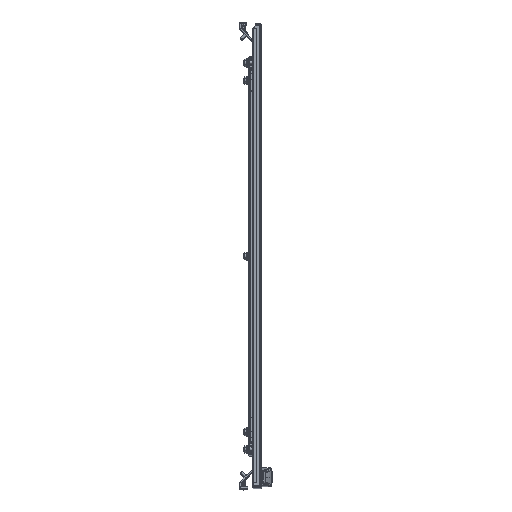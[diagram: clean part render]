
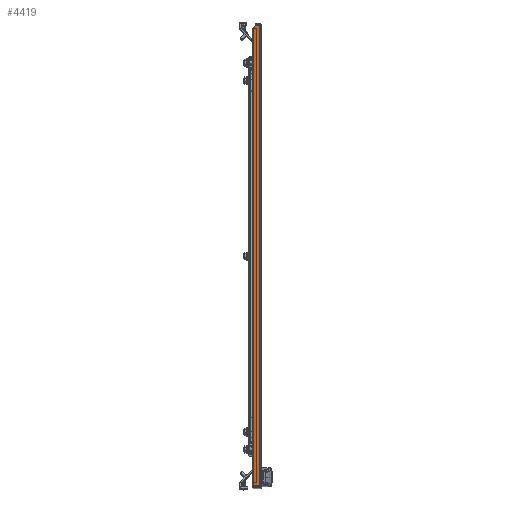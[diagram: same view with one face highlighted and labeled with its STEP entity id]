
A CAD part, top view. The second image highlights one B-rep face of the part: STEP entity #4419.
In plain terms, the highlighted planar face has unit normal (0, 0, 1).
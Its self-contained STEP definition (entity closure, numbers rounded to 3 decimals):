
#4419=ADVANCED_FACE('',(#12334),#12336,.T.);
#12334=FACE_BOUND('',#12335,.T.);
#12335=EDGE_LOOP('',(#31663,#31664,#31665,#31666,#31667,#31668,#31669,#31670,#31671));
#12336=PLANE('',#12337);
#12337=AXIS2_PLACEMENT_3D('',#12338,#12339,#12340);
#12338=CARTESIAN_POINT('',(-13.5,-393.2,785.5));
#12339=DIRECTION('',(0.,0.,1.));
#12340=DIRECTION('',(1.,0.,0.));
#31663=ORIENTED_EDGE('',*,*,#38468,.T.);
#31664=ORIENTED_EDGE('',*,*,#38474,.F.);
#31665=ORIENTED_EDGE('',*,*,#38475,.T.);
#31666=ORIENTED_EDGE('',*,*,#38476,.T.);
#31667=ORIENTED_EDGE('',*,*,#38477,.T.);
#31668=ORIENTED_EDGE('',*,*,#38478,.F.);
#31669=ORIENTED_EDGE('',*,*,#38479,.T.);
#31670=ORIENTED_EDGE('',*,*,#38480,.T.);
#31671=ORIENTED_EDGE('',*,*,#38431,.T.);
#38431=EDGE_CURVE('',#41931,#41929,#41932,.T.);
#38468=EDGE_CURVE('',#41929,#41994,#41996,.T.);
#38474=EDGE_CURVE('',#42005,#41994,#42006,.T.);
#38475=EDGE_CURVE('',#42005,#42007,#42008,.F.);
#38476=EDGE_CURVE('',#42007,#42009,#42010,.T.);
#38477=EDGE_CURVE('',#42009,#42011,#42012,.T.);
#38478=EDGE_CURVE('',#42013,#42011,#42014,.T.);
#38479=EDGE_CURVE('',#42013,#42015,#42016,.F.);
#38480=EDGE_CURVE('',#42015,#41931,#42017,.F.);
#41929=VERTEX_POINT('',#47834);
#41931=VERTEX_POINT('',#47839);
#41932=LINE('',#47840,#47841);
#41994=VERTEX_POINT('',#47983);
#41996=LINE('',#47987,#47988);
#42005=VERTEX_POINT('',#48010);
#42006=LINE('',#48011,#48012);
#42007=VERTEX_POINT('',#48014);
#42008=CIRCLE('',#48015,2.8);
#42009=VERTEX_POINT('',#48019);
#42010=LINE('',#48020,#48021);
#42011=VERTEX_POINT('',#48023);
#42012=LINE('',#48024,#48025);
#42013=VERTEX_POINT('',#48027);
#42014=LINE('',#48028,#48029);
#42015=VERTEX_POINT('',#48031);
#42016=CIRCLE('',#48032,1.55);
#42017=LINE('',#48036,#48037);
#47834=CARTESIAN_POINT('',(-11.95,-388.,785.5));
#47839=CARTESIAN_POINT('',(-11.95,387.859,785.5));
#47840=CARTESIAN_POINT('',(-11.95,387.859,785.5));
#47841=VECTOR('',#47842,1.);
#47842=DIRECTION('',(0.,-1.,0.));
#47983=CARTESIAN_POINT('',(-13.5,-388.,785.5));
#47987=CARTESIAN_POINT('',(-11.95,-388.,785.5));
#47988=VECTOR('',#47989,1.);
#47989=DIRECTION('',(-1.,0.,0.));
#48010=CARTESIAN_POINT('',(-13.5,-393.2,785.5));
#48011=CARTESIAN_POINT('',(-13.5,-393.2,785.5));
#48012=VECTOR('',#48013,1.);
#48013=DIRECTION('',(0.,1.,0.));
#48014=CARTESIAN_POINT('',(-10.7,-396.,785.5));
#48015=AXIS2_PLACEMENT_3D('',#48016,#48017,#48018);
#48016=CARTESIAN_POINT('',(-10.7,-393.2,785.5));
#48017=DIRECTION('',(0.,0.,-1.));
#48018=DIRECTION('',(0.,-1.,0.));
#48019=CARTESIAN_POINT('',(-1.3,-396.,785.5));
#48020=CARTESIAN_POINT('',(-10.7,-396.,785.5));
#48021=VECTOR('',#48022,1.);
#48022=DIRECTION('',(1.,0.,0.));
#48023=CARTESIAN_POINT('',(-1.3,396.,785.5));
#48024=CARTESIAN_POINT('',(-1.3,-396.,785.5));
#48025=VECTOR('',#48026,1.);
#48026=DIRECTION('',(0.,1.,0.));
#48027=CARTESIAN_POINT('',(-7.95,396.,785.5));
#48028=CARTESIAN_POINT('',(-7.95,396.,785.5));
#48029=VECTOR('',#48030,1.);
#48030=DIRECTION('',(1.,0.,0.));
#48031=CARTESIAN_POINT('',(-9.226,393.57,785.5));
#48032=AXIS2_PLACEMENT_3D('',#48033,#48034,#48035);
#48033=CARTESIAN_POINT('',(-7.95,394.45,785.5));
#48034=DIRECTION('',(0.,0.,-1.));
#48035=DIRECTION('',(-0.823,-0.568,0.));
#48036=CARTESIAN_POINT('',(-11.95,387.859,785.5));
#48037=VECTOR('',#48038,1.);
#48038=DIRECTION('',(0.431,0.903,0.));
